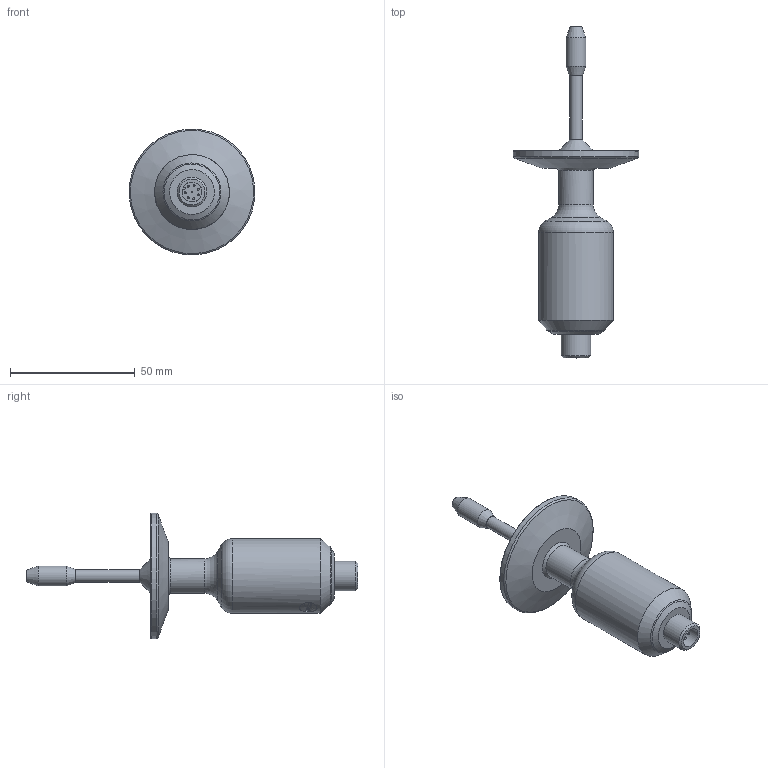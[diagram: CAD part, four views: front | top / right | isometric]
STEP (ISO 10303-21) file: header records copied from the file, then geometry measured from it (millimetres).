
FILE_DESCRIPTION(/* description */ ('Unknown'),/* implementation_level */ '2;1');
FILE_NAME(/* name */ 'SRV-X4-15T',/* time_stamp */ '2024-04-01T15:32:20-05:00',/* author */ ('Unknown'),/* organization */ ('Unknown'),/* preprocessor_version */ 'ST-DEVELOPER v16.7',/* originating_system */ 'Solid Edge',/* authorisation */ 'Unknown');
FILE_SCHEMA (('AUTOMOTIVE_DESIGN {1 0 10303 214 3 1 1}'));
Length unit declared in the file: millimetre
Products named in the file (1): SRV-X4-15T
Bounding box: 50.46 x 133.13 x 50.46 mm (x, y, z)
Volume: 47006.6 mm3; surface area: 12688.6 mm2
Topology: 1 solids, 1 shells, 177 faces, 453 edges, 291 vertices
Faces by surface type: bspline 74, plane 38, cylinder 36, cone 14, sphere 8, torus 7
Full cylindrical faces by diameter (mm): 0.8 x8, 5.019 x1, 8 x2, 12 x1, 13.9 x2, 14 x1, 30 x1, 50.5 x1
Entity records: 8655 total; most frequent: CARTESIAN_POINT 5198, ORIENTED_EDGE 756, DIRECTION 491, EDGE_CURVE 378, VERTEX_POINT 270, EDGE_LOOP 244, FACE_BOUND 244, AXIS2_PLACEMENT_3D 183
